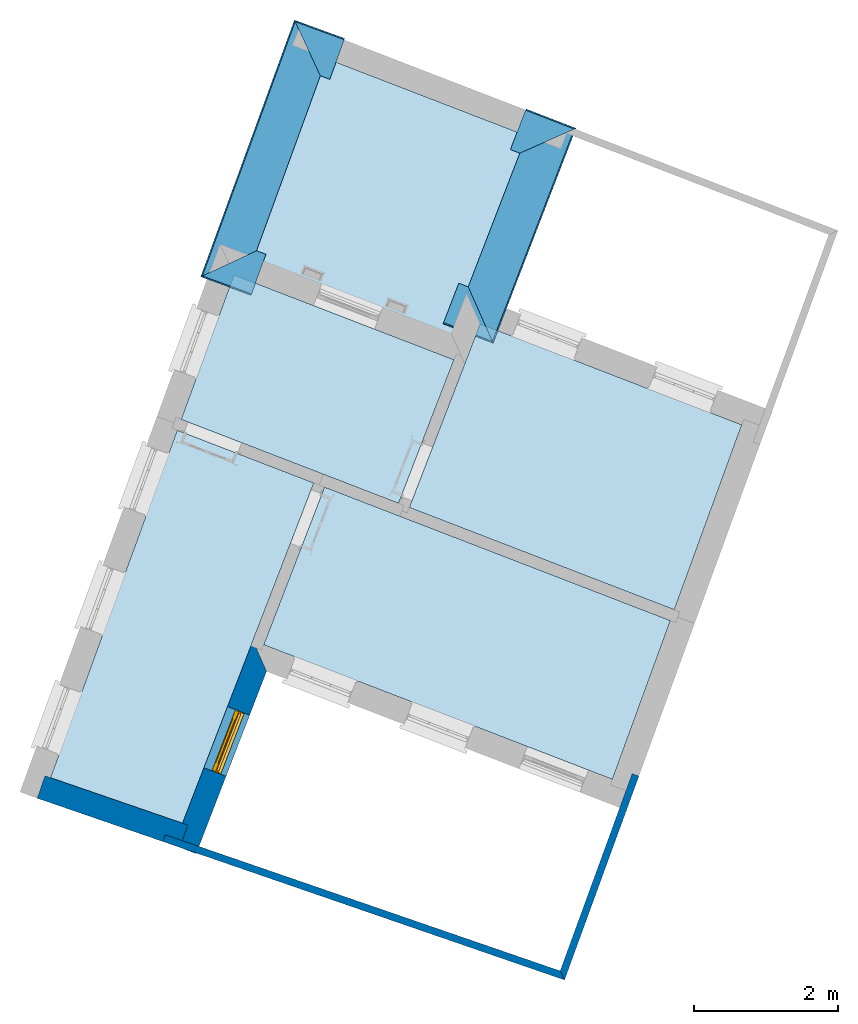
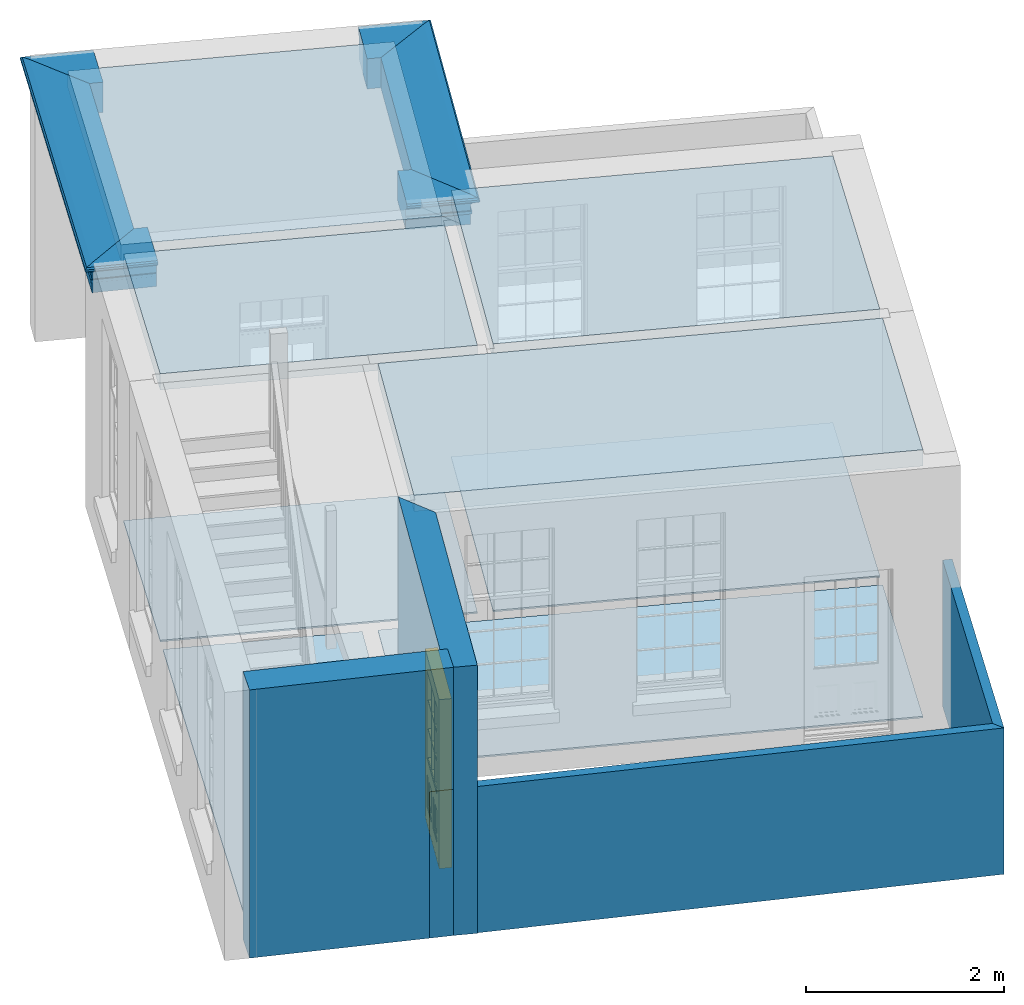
# One storey, part 1 of 6: 8 slabs, 6 beams, 4 walls, 1 door, 1 opening.
"""IFC4 building model written with IfcOpenShell, lengths in metres."""

from ifc_helpers import new_model, si_unit, frame, origin, origin_with_axes, place, context, subcontext, project, spatial, polyline, outline, extrude, clip, halfspace, faceted_brep, source, transform, mapped, material, layer, layer_set, layer_usage, material_profile, profile_set, profile_usage, type_object, type_shapes, element, fill, save


model = new_model("IFC4")

# Units and contexts
model_context = context("Model", 3, world=origin_with_axes())
body_context = subcontext(model_context, "Body", "Model", "MODEL_VIEW")
ifc_project = project(units=[si_unit("PLANEANGLEUNIT", "RADIAN"), si_unit("MASSUNIT", "GRAM", prefix="KILO"), si_unit("FORCEUNIT", "NEWTON", prefix="KILO"), si_unit("LENGTHUNIT", "METRE"), si_unit("AREAUNIT", "SQUARE_METRE"), si_unit("VOLUMEUNIT", "CUBIC_METRE")], contexts=[model_context, model_context])

# Sites, building, storey
site_1_placement = place(None, origin_with_axes())
site_1 = spatial("IfcSite", under=ifc_project, at=site_1_placement, Name="Tamar")
site_2_placement = place(site_1_placement, origin_with_axes())
site_2 = spatial("IfcSite", under=site_1, at=site_2_placement, Name="Site plot-11", CompositionType="ELEMENT")
building_placement = place(None, origin_with_axes())
building = spatial("IfcBuilding", under=site_2, at=building_placement, Name="Building plot-11", CompositionType="ELEMENT")
storey_placement = place(None, frame((0.0, 0.0, 26.8), z_axis=(0.0, 0.0, 1.0), x_axis=(1.0, 0.0, 0.0)))
storey = spatial("IfcBuildingStorey", under=building, at=storey_placement, Name="plot-11 0", CompositionType="ELEMENT", Elevation=26.8)

# Beams
ifc_material_profile_1 = material_profile(None, outline(polyline([(-0.26, 0.0), (-0.26, -0.37), (0.26, -0.37), (0.26, -0.235), (0.275, -0.235), (0.275, -0.2), (0.26, -0.2), (0.26, -0.11), (0.275, -0.11), (0.278, -0.098), (0.284, -0.089), (0.293, -0.083), (0.305, -0.08), (0.305, -0.065), (0.315, -0.065), (0.326, -0.063), (0.336, -0.056), (0.343, -0.047), (0.345, -0.035), (0.343, -0.023), (0.336, -0.014), (0.326, -0.007), (0.315, -0.005), (0.26, 0.0), (-0.26, 0.0)])))
ifc_profile_set_1 = profile_set([ifc_material_profile_1])
ifc_profile_usage_1 = profile_usage(ifc_profile_set_1)
beam_type_1 = type_object("IfcBeamType", Name="external beam_0", PredefinedType="NOTDEFINED", material=ifc_profile_set_1)
beam_1_placement = place(storey_placement, frame((245.458270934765, 316.22369480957, 3.3), z_axis=(-0.932925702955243, 0.360068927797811, 0.0), x_axis=(-0.360068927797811, -0.932925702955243, 0.0)))
element("IfcBeam", 1, at=beam_1_placement, inside=storey, type_object=beam_type_1, material=ifc_profile_usage_1, Name="external beam_0", context=body_context, shape_type="Clipping", body=[
    clip(clip(extrude(outline(polyline([(-0.26, 0.0), (-0.26, -0.37), (0.26, -0.37), (0.26, -0.235), (0.275, -0.235), (0.275, -0.2), (0.26, -0.2), (0.26, -0.11), (0.275, -0.11), (0.278, -0.098), (0.284, -0.089), (0.293, -0.083), (0.305, -0.08), (0.305, -0.065), (0.315, -0.065), (0.326, -0.063), (0.336, -0.056), (0.343, -0.047), (0.345, -0.035), (0.343, -0.023), (0.336, -0.014), (0.326, -0.007), (0.315, -0.005), (0.26, 0.0), (-0.26, 0.0)])), origin_with_axes(), (0.0, 0.0, 1.0), 2.4), halfspace(frame((0.0, 0.0, 1.4), z_axis=(5.04579357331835e-15, 0.0, -1.0), x_axis=(0.0, 1.0, 0.0)), True)), halfspace(frame((0.0, 0.0, 1.0), z_axis=(-0.707106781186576, 0.0, -0.707106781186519), x_axis=(0.0, 1.0, 0.0)), False)),
])
ifc_profile_usage_2 = profile_usage(ifc_profile_set_1)
beam_2_placement = place(storey_placement, frame((245.788917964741, 319.857635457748, 3.3), z_axis=(-0.360068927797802, -0.932925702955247, 0.0), x_axis=(0.932925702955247, -0.360068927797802, 0.0)))
element("IfcBeam", 2, at=beam_2_placement, inside=storey, type_object=beam_type_1, material=ifc_profile_usage_2, Name="external beam_0", context=body_context, shape_type="Clipping", body=[
    clip(clip(extrude(outline(polyline([(-0.26, 0.0), (-0.26, -0.37), (0.26, -0.37), (0.26, -0.235), (0.275, -0.235), (0.275, -0.2), (0.26, -0.2), (0.26, -0.11), (0.275, -0.11), (0.278, -0.098), (0.284, -0.089), (0.293, -0.083), (0.305, -0.08), (0.305, -0.065), (0.315, -0.065), (0.326, -0.063), (0.336, -0.056), (0.343, -0.047), (0.345, -0.035), (0.343, -0.023), (0.336, -0.014), (0.326, -0.007), (0.315, -0.005), (0.26, 0.0), (-0.26, 0.0)])), origin_with_axes(), (0.0, 0.0, 1.0), 4.5092523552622), halfspace(frame((0.0, 0.0, 3.5092523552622), z_axis=(0.707106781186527, 0.0, -0.707106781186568), x_axis=(0.0, 1.0, 0.0)), True)), halfspace(frame((0.0, 0.0, 1.0), z_axis=(-0.707106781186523, 0.0, -0.707106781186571), x_axis=(0.0, 1.0, 0.0)), False)),
])
ifc_profile_usage_3 = profile_usage(ifc_profile_set_1)
beam_3_placement = place(storey_placement, frame((244.122753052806, 319.428806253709, 3.3), z_axis=(0.932925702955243, -0.360068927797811, 0.0), x_axis=(0.360068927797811, 0.932925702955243, 0.0)))
element("IfcBeam", 3, at=beam_3_placement, inside=storey, type_object=beam_type_1, material=ifc_profile_usage_3, Name="external beam_0", context=body_context, shape_type="Clipping", body=[
    clip(clip(extrude(outline(polyline([(-0.26, 0.0), (-0.26, -0.37), (0.26, -0.37), (0.26, -0.235), (0.275, -0.235), (0.275, -0.2), (0.26, -0.2), (0.26, -0.11), (0.275, -0.11), (0.278, -0.098), (0.284, -0.089), (0.293, -0.083), (0.305, -0.08), (0.305, -0.065), (0.315, -0.065), (0.326, -0.063), (0.336, -0.056), (0.343, -0.047), (0.345, -0.035), (0.343, -0.023), (0.336, -0.014), (0.326, -0.007), (0.315, -0.005), (0.26, 0.0), (-0.26, 0.0)])), origin_with_axes(), (0.0, 0.0, 1.0), 2.4), halfspace(frame((0.0, 0.0, 1.4), z_axis=(0.707106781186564, 0.0, -0.707106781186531), x_axis=(0.0, 1.0, 0.0)), True)), halfspace(frame((0.0, 0.0, 1.0), z_axis=(4.82374896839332e-15, 0.0, -1.0), x_axis=(0.0, 1.0, 0.0)), False)),
])
ifc_material_profile_2 = material_profile(None, outline(polyline([(-0.26, 0.0), (-0.26, -0.37), (0.26, -0.37), (0.26, -0.235), (0.275, -0.235), (0.275, -0.2), (0.26, -0.2), (0.26, -0.11), (0.275, -0.11), (0.278, -0.098), (0.284, -0.089), (0.293, -0.083), (0.305, -0.08), (0.305, -0.065), (0.315, -0.065), (0.326, -0.063), (0.336, -0.056), (0.343, -0.047), (0.345, -0.035), (0.343, -0.023), (0.336, -0.014), (0.326, -0.007), (0.315, -0.005), (0.26, 0.0), (-0.26, 0.0)])))
ifc_profile_set_2 = profile_set([ifc_material_profile_2])
ifc_profile_usage_4 = profile_usage(ifc_profile_set_2)
beam_type_2 = type_object("IfcBeamType", Name="external beam_0", PredefinedType="NOTDEFINED", material=ifc_profile_set_2)
beam_4_placement = place(storey_placement, frame((241.22808564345, 320.526191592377, 3.3), z_axis=(0.939432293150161, -0.342734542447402, 0.0), x_axis=(0.342734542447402, 0.939432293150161, 0.0)))
element("IfcBeam", 4, at=beam_4_placement, inside=storey, type_object=beam_type_2, material=ifc_profile_usage_4, Name="external beam_0", context=body_context, shape_type="Clipping", body=[
    clip(clip(extrude(outline(polyline([(-0.26, 0.0), (-0.26, -0.37), (0.26, -0.37), (0.26, -0.235), (0.275, -0.235), (0.275, -0.2), (0.26, -0.2), (0.26, -0.11), (0.275, -0.11), (0.278, -0.098), (0.284, -0.089), (0.293, -0.083), (0.305, -0.08), (0.305, -0.065), (0.315, -0.065), (0.326, -0.063), (0.336, -0.056), (0.343, -0.047), (0.345, -0.035), (0.343, -0.023), (0.336, -0.014), (0.326, -0.007), (0.315, -0.005), (0.26, 0.0), (-0.26, 0.0)])), origin_with_axes(), (0.0, 0.0, 1.0), 2.4), halfspace(frame((0.0, 0.0, 1.4), z_axis=(-6.12323399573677e-17, 0.0, -1.0), x_axis=(0.0, 1.0, 0.0)), True)), halfspace(frame((0.0, 0.0, 1.0), z_axis=(-0.707106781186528, 0.0, -0.707106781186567), x_axis=(0.0, 1.0, 0.0)), False)),
])
ifc_profile_usage_5 = profile_usage(ifc_profile_set_2)
beam_5_placement = place(storey_placement, frame((240.760158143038, 316.325896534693, 3.3), z_axis=(0.342734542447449, 0.939432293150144, 0.0), x_axis=(-0.939432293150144, 0.342734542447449, 0.0)))
element("IfcBeam", 5, at=beam_5_placement, inside=storey, type_object=beam_type_2, material=ifc_profile_usage_5, Name="external beam_0", context=body_context, shape_type="Clipping", body=[
    clip(clip(extrude(outline(polyline([(-0.26, 0.0), (-0.26, -0.37), (0.26, -0.37), (0.26, -0.235), (0.275, -0.235), (0.275, -0.2), (0.26, -0.2), (0.26, -0.11), (0.275, -0.11), (0.278, -0.098), (0.284, -0.089), (0.293, -0.083), (0.305, -0.08), (0.305, -0.065), (0.315, -0.065), (0.326, -0.063), (0.336, -0.056), (0.343, -0.047), (0.345, -0.035), (0.343, -0.023), (0.336, -0.014), (0.326, -0.007), (0.315, -0.005), (0.26, 0.0), (-0.26, 0.0)])), origin_with_axes(), (0.0, 0.0, 1.0), 5.10626773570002), halfspace(frame((0.0, 0.0, 4.10626773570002), z_axis=(0.707106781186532, 0.0, -0.707106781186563), x_axis=(0.0, 1.0, 0.0)), True)), halfspace(frame((0.0, 0.0, 1.0), z_axis=(-0.707106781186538, 0.0, -0.707106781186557), x_axis=(0.0, 1.0, 0.0)), False)),
])
ifc_profile_usage_6 = profile_usage(ifc_profile_set_2)
beam_6_placement = place(storey_placement, frame((242.418097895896, 316.785500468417, 3.3), z_axis=(-0.939432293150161, 0.342734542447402, 0.0), x_axis=(-0.342734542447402, -0.939432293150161, 0.0)))
element("IfcBeam", 6, at=beam_6_placement, inside=storey, type_object=beam_type_2, material=ifc_profile_usage_6, Name="external beam_0", context=body_context, shape_type="Clipping", body=[
    clip(clip(extrude(outline(polyline([(-0.26, 0.0), (-0.26, -0.37), (0.26, -0.37), (0.26, -0.235), (0.275, -0.235), (0.275, -0.2), (0.26, -0.2), (0.26, -0.11), (0.275, -0.11), (0.278, -0.098), (0.284, -0.089), (0.293, -0.083), (0.305, -0.08), (0.305, -0.065), (0.315, -0.065), (0.326, -0.063), (0.336, -0.056), (0.343, -0.047), (0.345, -0.035), (0.343, -0.023), (0.336, -0.014), (0.326, -0.007), (0.315, -0.005), (0.26, 0.0), (-0.26, 0.0)])), origin_with_axes(), (0.0, 0.0, 1.0), 2.4), halfspace(frame((0.0, 0.0, 1.4), z_axis=(0.707106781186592, 0.0, -0.707106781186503), x_axis=(0.0, 1.0, 0.0)), True)), halfspace(frame((0.0, 0.0, 1.0), z_axis=(3.82856869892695e-16, 0.0, -1.0), x_axis=(0.0, 1.0, 0.0)), False)),
])

# Slabs
slab_1_placement = place(storey_placement, frame((246.37947383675, 310.078982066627, 3.1)))
element("IfcSlab", 7, at=slab_1_placement, inside=storey, Name="My Slab", ObjectType="Slab", PredefinedType="FLOOR", context=body_context, shape_type="SweptSolid", body=[
    extrude(outline(polyline([(0.0, 0.0), (0.804593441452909, 2.20538337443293), (-3.99848914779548, 4.05916529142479), (-4.84363138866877, 1.86943199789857), (0.0, 0.0)])), origin_with_axes(), (0.0, 0.0, 1.0), 0.2),
])
slab_2_placement = place(storey_placement, frame((246.37947383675, 310.078982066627, 0.0)))
element("IfcSlab", 8, at=slab_2_placement, inside=storey, Name="My Slab", ObjectType="Slab", PredefinedType="FLOOR", context=body_context, shape_type="SweptSolid", body=[
    extrude(outline(polyline([(0.0, 0.0), (0.804593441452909, 2.20538337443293), (-3.99848914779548, 4.05916529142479), (-4.84363138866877, 1.86943199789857), (0.0, 0.0)])), origin_with_axes(), (0.0, 0.0, 1.0), 0.02),
])
slab_3_placement = place(storey_placement, frame((243.40878116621, 313.912965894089, 3.1)))
element("IfcSlab", 9, at=slab_3_placement, inside=storey, Name="My Slab", ObjectType="Slab", PredefinedType="FLOOR", context=body_context, shape_type="SweptSolid", body=[
    extrude(outline(polyline([(0.0, 0.0), (0.769553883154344, 1.99388656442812), (-2.28608385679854, 3.17323042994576), (-3.01871556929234, 1.1650935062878), (0.0, 0.0)])), origin_with_axes(), (0.0, 0.0, 1.0), 0.2),
])
slab_4_placement = place(storey_placement, frame((243.40878116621, 313.912965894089, 0.0)))
element("IfcSlab", 10, at=slab_4_placement, inside=storey, Name="My Slab", ObjectType="Slab", PredefinedType="FLOOR", context=body_context, shape_type="SweptSolid", body=[
    extrude(outline(polyline([(0.0, 0.0), (0.769553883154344, 1.99388656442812), (-2.28608385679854, 3.17323042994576), (-3.01871556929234, 1.1650935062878), (0.0, 0.0)])), origin_with_axes(), (0.0, 0.0, 1.0), 0.02),
])
slab_5_placement = place(storey_placement, frame((247.238914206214, 312.434700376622, 3.1)))
element("IfcSlab", 11, at=slab_5_placement, inside=storey, Name="My Slab", ObjectType="Slab", PredefinedType="FLOOR", context=body_context, shape_type="SweptSolid", body=[
    extrude(outline(polyline([(0.0, 0.0), (0.937092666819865, 2.56856255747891), (-2.69654594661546, 3.97098973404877), (-3.68086492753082, 1.42065448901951), (0.0, 0.0)])), origin_with_axes(), (0.0, 0.0, 1.0), 0.2),
])
slab_6_placement = place(storey_placement, frame((247.238914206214, 312.434700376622, 0.0)))
element("IfcSlab", 12, at=slab_6_placement, inside=storey, Name="My Slab", ObjectType="Slab", PredefinedType="FLOOR", context=body_context, shape_type="SweptSolid", body=[
    extrude(outline(polyline([(0.0, 0.0), (0.937092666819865, 2.56856255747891), (-2.69654594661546, 3.97098973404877), (-3.68086492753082, 1.42065448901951), (0.0, 0.0)])), origin_with_axes(), (0.0, 0.0, 1.0), 0.02),
])
slab_7_placement = place(storey_placement, frame((244.235946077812, 316.05612057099, 3.1)))
element("IfcSlab", 13, at=slab_7_placement, inside=storey, Name="My Slab", ObjectType="Slab", PredefinedType="FLOOR", context=body_context, shape_type="SweptSolid", body=[
    extrude(outline(polyline([(0.0, 0.0), (1.1182689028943, 2.89739469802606), (-1.99378599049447, 4.09851314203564), (-3.05840184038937, 1.18041068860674), (0.0, 0.0)])), origin_with_axes(), (0.0, 0.0, 1.0), 0.2),
])
slab_8_placement = place(storey_placement, frame((242.231716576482, 314.1957583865, 0.0)))
element("IfcSlab", 14, at=slab_8_placement, inside=storey, Name="My Slab", ObjectType="Slab", PredefinedType="FLOOR", context=body_context, shape_type="SweptSolid", body=[
    extrude(outline(polyline([(0.0, 0.0), (-1.89649790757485, 0.731966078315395), (-3.65703367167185, -4.09364659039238), (-1.82384655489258, -4.72552113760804), (0.0, 0.0)])), origin_with_axes(), (0.0, 0.0, 1.0), 0.02),
])

# Wall, opening, door
ifc_material_1 = material(Name="Masonry")
ifc_layer_1 = layer(ifc_material_1, 0.33, ventilated=False)
ifc_layer_set_1 = layer_set([ifc_layer_1], Name="exterior_0.08_0.25")
ifc_layer_usage_1 = layer_usage(ifc_layer_set_1, "AXIS2", "POSITIVE", -0.25)
wall_type_1 = type_object("IfcWallType", Name="exterior_0.08_0.25", PredefinedType="SOLIDWALL", material=ifc_layer_set_1)
wall_1_placement = place(storey_placement, frame((240.454728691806, 309.369466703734, 0.0), z_axis=(0.0, 0.0, 1.0), x_axis=(0.360068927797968, 0.932925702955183, 0.0)))
wall_1 = element("IfcWall", 15, at=wall_1_placement, inside=storey, type_object=wall_type_1, material=ifc_layer_usage_1, Name="exterior", context=body_context, shape_type="SweptSolid", body=[
    extrude(outline(polyline([(-0.249999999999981, 0.0800000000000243), (-0.249999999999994, -0.249999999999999), (2.46524175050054, -0.249999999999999), (2.79524175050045, 0.0800000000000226), (-0.249999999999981, 0.0800000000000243)])), origin_with_axes(), (0.0, 0.0, 1.0), 3.3),
])
opening_placement = place(wall_1_placement, frame((0.902620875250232, 0.0, 0.0199999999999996)))
opening = element("IfcOpeningElement", 16, at=opening_placement, cuts=wall_1, Name="My Opening", ObjectType="Opening", context=body_context, shape_type="SweptSolid", body=[
    extrude(outline(polyline([(0.0, -0.270000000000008), (0.910000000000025, -0.270000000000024), (0.910000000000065, 1.09999999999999), (4.00790511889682e-14, 1.1), (0.0, -0.270000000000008)])), origin_with_axes(), (0.0, 0.0, 1.0), 2.08),
])
door_type = type_object("IfcDoorType", Name="door_panelled", OperationType="SINGLE_SWING_LEFT", PredefinedType="NOTDEFINED")
shared_shape = source(origin(), body_context, "Body", "Brep", [
    faceted_brep([(0.545, 0.195, 0.265), (0.745, 0.195, 0.265), (0.745, 0.2, 0.265), (0.545, 0.2, 0.265), (0.745, 0.2, 0.58), (0.545, 0.2, 0.58), (0.545, 0.195, 0.58), (0.515, 0.19, 0.235), (0.775, 0.19, 0.235), (0.745, 0.195, 0.58), (0.515, 0.19, 0.61), (0.515, 0.185, 0.235), (0.775, 0.185, 0.235), (0.775, 0.19, 0.61), (0.515, 0.185, 0.61), (0.785, 0.185, 0.225), (0.505, 0.185, 0.225), (0.775, 0.185, 0.61), (0.505, 0.185, 0.62), (0.785, 0.185, 0.62), (0.505, 0.18, 0.225), (0.785, 0.18, 0.225), (0.505, 0.18, 0.62), (0.785, 0.18, 0.62), (0.883, 0.18, 0.075), (0.898, 0.18, 0.075), (0.405, 0.18, 0.62), (0.405, 0.18, 0.225), (0.027, 0.18, 0.075), (0.785, 0.18, 0.82), (0.125, 0.18, 0.82), (0.405, 0.185, 0.62), (0.405, 0.185, 0.225), (0.898, 0.18, 2.068), (0.027, 0.17, 0.075), (0.883, 0.17, 0.075), (0.125, 0.18, 0.225), (0.012, 0.18, 0.075), (0.785, 0.19, 0.82), (0.125, 0.19, 0.82), (0.125, 0.18, 0.62), (0.125, 0.185, 0.62), (0.395, 0.185, 0.61), (0.395, 0.185, 0.235), (0.125, 0.185, 0.225), (0.785, 0.18, 1.895), (0.027, 0.14, 0.045), (0.883, 0.14, 0.045), (0.558333, 0.19, 0.83), (0.351667, 0.19, 0.83), (0.125, 0.18, 1.895), (0.125, 0.19, 1.895), (0.785, 0.19, 1.895), (0.012, 0.18, 2.068), (0.135, 0.185, 0.61), (0.395, 0.19, 0.61), (0.395, 0.19, 0.235), (0.135, 0.185, 0.235), (0.027, 0.14, 0.027), (0.883, 0.14, 0.027), (0.568333, 0.19, 0.83), (0.558333, 0.22, 0.83), (0.351667, 0.22, 0.83), (0.341667, 0.19, 0.83), (0.135, 0.19, 1.185), (0.135, 0.19, 1.53), (0.775, 0.19, 1.53), (0.775, 0.19, 1.185), (0.135, 0.19, 0.61), (0.365, 0.195, 0.58), (0.365, 0.195, 0.265), (0.135, 0.19, 0.235), (0.568333, 0.19, 1.175), (0.558333, 0.19, 1.175), (0.775, 0.19, 0.83), (0.558333, 0.22, 1.175), (0.785, 0.22, 0.82), (0.125, 0.22, 0.82), (0.351667, 0.22, 1.175), (0.351667, 0.19, 1.175), (0.341667, 0.19, 1.175), (0.135, 0.19, 0.83), (0.135, 0.19, 1.175), (0.135, 0.22, 1.185), (0.135, 0.22, 1.53), (0.135, 0.19, 1.54), (0.351667, 0.19, 1.885), (0.558333, 0.19, 1.885), (0.775, 0.22, 1.53), (0.775, 0.22, 1.185), (0.775, 0.19, 1.175), (0.775, 0.19, 1.54), (0.165, 0.195, 0.58), (0.365, 0.2, 0.58), (0.365, 0.2, 0.265), (0.165, 0.195, 0.265), (0.568333, 0.22, 0.83), (0.568333, 0.22, 1.175), (0.568333, 0.19, 1.185), (0.558333, 0.19, 1.185), (0.775, 0.22, 0.83), (0.785, 0.23, 0.82), (0.125, 0.23, 0.82), (0.341667, 0.22, 0.83), (0.341667, 0.22, 1.175), (0.351667, 0.19, 1.185), (0.341667, 0.19, 1.185), (0.135, 0.22, 0.83), (0.341667, 0.22, 1.185), (0.125, 0.22, 1.895), (0.341667, 0.22, 1.53), (0.341667, 0.19, 1.53), (0.135, 0.19, 1.885), (0.341667, 0.19, 1.54), (0.341667, 0.19, 1.885), (0.558333, 0.22, 1.885), (0.351667, 0.22, 1.885), (0.568333, 0.19, 1.885), (0.785, 0.22, 1.895), (0.568333, 0.22, 1.185), (0.568333, 0.19, 1.53), (0.568333, 0.22, 1.53), (0.568333, 0.19, 1.54), (0.775, 0.19, 1.885), (0.165, 0.2, 0.58), (0.165, 0.2, 0.265), (0.775, 0.22, 1.175), (0.558333, 0.19, 1.53), (0.351667, 0.22, 1.185), (0.558333, 0.22, 1.185), (0.505, 0.23, 0.62), (0.405, 0.23, 0.62), (0.125, 0.23, 1.895), (0.785, 0.23, 1.895), (0.351667, 0.19, 1.53), (0.135, 0.22, 1.175), (0.135, 0.22, 1.54), (0.341667, 0.22, 1.54), (0.135, 0.22, 1.885), (0.351667, 0.19, 1.54), (0.558333, 0.22, 1.54), (0.558333, 0.19, 1.54), (0.351667, 0.22, 1.54), (0.775, 0.22, 1.54), (0.568333, 0.22, 1.54), (0.775, 0.22, 1.885), (0.558333, 0.22, 1.53), (0.405, 0.23, 0.225), (0.505, 0.23, 0.225), (0.125, 0.23, 0.62), (0.785, 0.23, 0.62), (0.012, 0.23, 2.068), (0.898, 0.23, 2.068), (0.351667, 0.22, 1.53), (0.341667, 0.22, 1.885), (0.568333, 0.22, 1.885), (0.405, 0.225, 0.225), (0.405, 0.225, 0.62), (0.505, 0.225, 0.62), (0.505, 0.225, 0.225), (0.898, 0.23, 0.027), (0.012, 0.23, 0.027), (0.125, 0.225, 0.62), (0.785, 0.225, 0.62), (0.395, 0.225, 0.235), (0.395, 0.225, 0.61), (0.125, 0.23, 0.225), (0.125, 0.225, 0.225), (0.515, 0.225, 0.61), (0.515, 0.225, 0.235), (0.785, 0.23, 0.225), (0.785, 0.225, 0.225), (0.135, 0.225, 0.61), (0.775, 0.225, 0.61), (0.135, 0.225, 0.235), (0.395, 0.22, 0.235), (0.395, 0.22, 0.61), (0.515, 0.22, 0.61), (0.515, 0.22, 0.235), (0.775, 0.225, 0.235), (0.135, 0.22, 0.61), (0.775, 0.22, 0.61), (0.135, 0.22, 0.235), (0.365, 0.215, 0.265), (0.365, 0.215, 0.58), (0.545, 0.215, 0.58), (0.545, 0.215, 0.265), (0.775, 0.22, 0.235), (0.165, 0.215, 0.58), (0.745, 0.215, 0.58), (0.165, 0.215, 0.265), (0.365, 0.21, 0.58), (0.365, 0.21, 0.265), (0.545, 0.21, 0.58), (0.545, 0.21, 0.265), (0.745, 0.215, 0.265), (0.165, 0.21, 0.58), (0.745, 0.21, 0.58), (0.165, 0.21, 0.265), (0.745, 0.21, 0.265), (0.885, 0.178, 0.025), (0.025, 0.178, 0.025), (0.025, 0.15, 0.025), (0.885, 0.15, 0.025), (0.9, 0.23, 0.025), (0.01, 0.23, 0.025), (0.9, 0.178, 0.025), (0.91, 0.23, 0.0), (0.0, 0.23, 0.0), (0.01, 0.178, 0.025), (0.9, 0.178, 2.07), (0.9, 0.23, 2.07), (0.885, 0.178, 2.055), (0.91, 0.23, 2.08), (0.01, 0.23, 2.07), (0.0, 0.23, 2.08), (0.01, 0.178, 2.07), (0.025, 0.178, 2.055), (0.0, 0.1, 2.08), (0.91, 0.1, 2.08), (0.01, 0.1, 2.07), (0.9, 0.1, 2.07), (0.01, 0.15, 2.07), (0.9, 0.15, 2.07), (0.0, 0.1, 0.0), (0.91, 0.1, 0.0), (0.01, 0.1, 0.025), (0.9, 0.1, 0.025), (0.01, 0.15, 0.025), (0.025, 0.15, 2.055), (0.9, 0.15, 0.025), (0.885, 0.15, 2.055), (0.898, 0.18, 0.027), (0.012, 0.18, 0.027), (0.883, 0.18, 0.027), (0.027, 0.18, 0.027)], [[[0, 1, 2, 3]], [[2, 4, 5, 3]], [[0, 3, 5, 6]], [[1, 0, 7, 8]], [[9, 4, 2, 1]], [[9, 6, 5, 4]], [[0, 6, 10, 7]], [[8, 7, 11, 12]], [[8, 13, 9, 1]], [[13, 10, 6, 9]], [[7, 10, 14, 11]], [[15, 12, 11, 16]], [[12, 17, 13, 8]], [[17, 14, 10, 13]], [[18, 16, 11, 14]], [[15, 19, 17, 12]], [[15, 16, 20, 21]], [[14, 17, 19, 18]], [[16, 18, 22, 20]], [[21, 23, 19, 15]], [[24, 25, 21, 20]], [[23, 22, 18, 19]], [[20, 22, 26, 27]], [[23, 21, 25]], [[28, 24, 20, 27]], [[22, 23, 29]], [[29, 30, 26, 22]], [[27, 26, 31, 32]], [[23, 25, 33, 29]], [[34, 35, 24, 28]], [[28, 27, 36, 37]], [[38, 39, 30, 29]], [[26, 30, 40]], [[26, 40, 41, 31]], [[42, 43, 32, 31]], [[32, 44, 36, 27]], [[33, 45, 29]], [[46, 47, 35, 34]], [[36, 40, 37]], [[39, 38, 48, 49]], [[50, 30, 39, 51]], [[29, 45, 52, 38]], [[53, 37, 40, 30]], [[44, 41, 40, 36]], [[31, 41, 54, 42]], [[43, 42, 55, 56]], [[57, 44, 32, 43]], [[50, 45, 33, 53]], [[47, 46, 58, 59]], [[60, 48, 38]], [[49, 48, 61, 62]], [[49, 63, 39]], [[50, 53, 30]], [[51, 39, 64, 65]], [[45, 50, 51, 52]], [[66, 67, 38, 52]], [[57, 54, 41, 44]], [[42, 54, 68, 55]], [[56, 55, 69, 70]], [[56, 71, 57, 43]], [[60, 72, 73, 48]], [[60, 38, 74]], [[48, 73, 75, 61]], [[76, 77, 62, 61]], [[62, 78, 79, 49]], [[49, 79, 80, 63]], [[63, 81, 39]], [[82, 64, 39]], [[65, 64, 83, 84]], [[85, 51, 65]], [[52, 51, 86, 87]], [[88, 89, 67, 66]], [[90, 38, 67]], [[91, 66, 52]], [[71, 68, 54, 57]], [[55, 68, 92, 69]], [[69, 93, 94, 70]], [[70, 95, 71, 56]], [[96, 97, 72, 60]], [[73, 72, 98, 99]], [[74, 38, 90]], [[100, 96, 60, 74]], [[75, 73, 79, 78]], [[61, 75, 97, 96]], [[101, 102, 77, 76]], [[77, 103, 62]], [[96, 76, 61]], [[103, 104, 78, 62]], [[80, 79, 105, 106]], [[63, 80, 104, 103]], [[81, 63, 103, 107]], [[81, 82, 39]], [[106, 64, 82, 80]], [[106, 108, 83, 64]], [[84, 83, 77, 109]], [[110, 111, 65, 84]], [[112, 51, 85]], [[113, 85, 65, 111]], [[114, 86, 51]], [[115, 87, 86, 116]], [[117, 52, 87]], [[118, 76, 89, 88]], [[119, 98, 67, 89]], [[120, 121, 88, 66]], [[67, 98, 72, 90]], [[91, 122, 120, 66]], [[91, 52, 123]], [[95, 92, 68, 71]], [[69, 92, 124, 93]], [[94, 93, 124, 125]], [[94, 125, 95, 70]], [[72, 97, 126, 90]], [[127, 99, 98, 120]], [[99, 105, 79, 73]], [[74, 90, 126, 100]], [[96, 100, 76]], [[128, 129, 75, 78]], [[97, 75, 129, 119]], [[130, 131, 102, 101]], [[109, 77, 102, 132]], [[133, 101, 76, 118]], [[77, 107, 103]], [[78, 104, 108, 128]], [[111, 106, 105, 134]], [[104, 80, 82, 135]], [[107, 135, 82, 81]], [[110, 108, 106, 111]], [[104, 135, 83, 108]], [[83, 135, 77]], [[136, 84, 109]], [[110, 84, 136, 137]], [[114, 51, 112]], [[85, 136, 138, 112]], [[113, 137, 136, 85]], [[111, 134, 139, 113]], [[86, 114, 113, 139]], [[140, 141, 87, 115]], [[139, 142, 116, 86]], [[109, 118, 115, 116]], [[117, 123, 52]], [[117, 87, 141, 122]], [[126, 89, 76]], [[143, 118, 88]], [[120, 98, 119, 121]], [[119, 89, 126, 97]], [[144, 143, 88, 121]], [[144, 122, 91, 143]], [[127, 120, 122, 141]], [[143, 91, 123, 145]], [[124, 92, 95, 125]], [[146, 129, 99, 127]], [[99, 129, 128, 105]], [[100, 126, 76]], [[121, 119, 129, 146]], [[147, 131, 130, 148]], [[131, 149, 102]], [[130, 101, 150]], [[102, 151, 132]], [[118, 109, 132, 133]], [[101, 133, 152]], [[107, 77, 135]], [[153, 128, 108, 110]], [[134, 105, 128, 153]], [[109, 138, 136]], [[153, 110, 137, 142]], [[154, 114, 112, 138]], [[137, 113, 114, 154]], [[141, 139, 134, 127]], [[141, 140, 142, 139]], [[144, 140, 115, 155]], [[142, 137, 154, 116]], [[155, 115, 118]], [[116, 154, 109]], [[117, 155, 145, 123]], [[122, 144, 155, 117]], [[143, 145, 118]], [[121, 146, 140, 144]], [[146, 127, 134, 153]], [[156, 157, 131, 147]], [[148, 130, 158, 159]], [[148, 160, 161, 147]], [[157, 162, 149, 131]], [[161, 151, 102, 149]], [[101, 152, 160, 150]], [[163, 158, 130, 150]], [[151, 152, 133, 132]], [[154, 138, 109]], [[142, 140, 146, 153]], [[145, 155, 118]], [[157, 156, 164, 165]], [[147, 166, 167, 156]], [[168, 169, 159, 158]], [[170, 148, 159, 171]], [[148, 170, 160]], [[166, 147, 161]], [[172, 162, 157, 165]], [[166, 149, 162, 167]], [[166, 161, 149]], [[150, 160, 170]], [[163, 173, 168, 158]], [[171, 163, 150, 170]], [[174, 164, 156, 167]], [[175, 176, 165, 164]], [[169, 168, 177, 178]], [[171, 159, 169, 179]], [[167, 162, 172, 174]], [[176, 180, 172, 165]], [[179, 173, 163, 171]], [[181, 177, 168, 173]], [[164, 174, 182, 175]], [[183, 184, 176, 175]], [[178, 177, 185, 186]], [[179, 169, 178, 187]], [[174, 172, 180, 182]], [[184, 188, 180, 176]], [[187, 181, 173, 179]], [[189, 185, 177, 181]], [[175, 182, 190, 183]], [[191, 184, 183, 192]], [[185, 193, 194, 186]], [[187, 178, 186, 195]], [[182, 180, 188, 190]], [[191, 196, 188, 184]], [[195, 189, 181, 187]], [[197, 193, 185, 189]], [[183, 190, 198, 192]], [[198, 196, 191, 192]], [[194, 193, 197, 199]], [[195, 186, 194, 199]], [[188, 196, 198, 190]], [[197, 189, 195, 199]], [[200, 201, 202, 203]], [[201, 200, 204, 205]], [[206, 204, 200]], [[204, 207, 208, 205]], [[209, 201, 205]], [[210, 211, 204, 206]], [[206, 200, 212, 210]], [[211, 213, 207, 204]], [[214, 205, 208, 215]], [[216, 217, 201, 209]], [[205, 214, 216, 209]], [[216, 214, 211, 210]], [[210, 212, 217, 216]], [[214, 215, 213, 211]], [[218, 219, 213, 215]], [[219, 218, 220, 221]], [[221, 220, 222, 223]], [[215, 208, 224, 218]], [[225, 224, 208, 207]], [[224, 226, 220, 218]], [[224, 225, 227, 226]], [[219, 225, 207, 213]], [[228, 222, 220, 226]], [[219, 221, 227, 225]], [[226, 227, 203, 202]], [[202, 229, 222, 228]], [[228, 226, 202]], [[227, 221, 223, 230]], [[230, 203, 227]], [[217, 229, 202, 201]], [[231, 223, 222, 229]], [[230, 223, 231, 203]], [[231, 229, 217, 212]], [[212, 200, 203, 231]], [[33, 152, 151, 53]], [[25, 160, 152, 33]], [[161, 37, 53, 151]], [[232, 160, 25]], [[161, 233, 37]], [[160, 232, 234]], [[24, 234, 232, 25]], [[233, 161, 235]], [[37, 233, 235, 28]], [[161, 160, 234, 235]], [[35, 47, 234, 24]], [[28, 235, 46, 34]], [[58, 235, 234, 59]], [[59, 234, 47]], [[58, 46, 235]]]),
])
type_shapes(door_type, [shared_shape])
door_placement = place(storey_placement, frame((241.031624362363, 310.114326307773, 0.0199999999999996), z_axis=(0.0, 0.0, 1.0), x_axis=(0.327662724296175, 0.848962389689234, 0.0)))
door = element("IfcDoor", 17, at=door_placement, inside=storey, type_object=door_type, Name="circulation outside door", OverallHeight=2.08, OverallWidth=0.91, context=body_context, shape_type="MappedRepresentation", body=[
    mapped(shared_shape, transform((0.0, 0.0, 0.0), scale=1.0)),
])
fill(opening, door)

# Walls
ifc_material_2 = material(Name="Masonry")
ifc_layer_2 = layer(ifc_material_2, 0.33, ventilated=False)
ifc_layer_set_2 = layer_set([ifc_layer_2], Name="party_0.08_0.25")
ifc_layer_usage_2 = layer_usage(ifc_layer_set_2, "AXIS2", "POSITIVE", -0.25)
wall_type_2 = type_object("IfcWallType", Name="party_0.08_0.25", PredefinedType="SOLIDWALL", material=ifc_layer_set_2)
wall_2_placement = place(storey_placement, frame((238.471614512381, 310.053019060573, 0.0), z_axis=(0.0, 0.0, 1.0), x_axis=(0.945414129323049, -0.325871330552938, 0.0)))
element("IfcWall", 18, at=wall_2_placement, inside=storey, type_object=wall_type_2, material=ifc_layer_usage_2, Name="party", context=body_context, shape_type="SweptSolid", body=[
    extrude(outline(polyline([(4.65895350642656e-15, 0.0800000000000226), (1.5053108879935e-14, -0.250000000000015), (2.097614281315, -0.250000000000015), (2.09761428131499, 0.0800000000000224), (4.65895350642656e-15, 0.0800000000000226)])), origin_with_axes(), (0.0, 0.0, 1.0), 3.3),
])
ifc_material_3 = material(Name="Masonry")
ifc_layer_3 = layer(ifc_material_3, 0.1, ventilated=False)
ifc_layer_set_3 = layer_set([ifc_layer_3], Name="fence_-0.15_0.25")
ifc_layer_usage_3 = layer_usage(ifc_layer_set_3, "AXIS2", "POSITIVE", -0.25)
wall_type_3 = type_object("IfcWallType", Name="fence_-0.15_0.25", PredefinedType="SOLIDWALL", material=ifc_layer_set_3)
wall_3_placement = place(storey_placement, frame((240.454728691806, 309.369466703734, 0.0), z_axis=(0.0, 0.0, 1.0), x_axis=(0.945414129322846, -0.325871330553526, 0.0)))
element("IfcWall", 19, at=wall_3_placement, inside=storey, type_object=wall_type_3, material=ifc_layer_usage_3, Name="fence", context=body_context, shape_type="SweptSolid", body=[
    extrude(outline(polyline([(-0.250000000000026, -0.149999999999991), (-0.250000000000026, -0.250000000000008), (5.64915277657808, -0.249999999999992), (5.55092625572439, -0.150000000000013), (-0.250000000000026, -0.149999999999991)])), origin_with_axes(), (0.0, 0.0, 1.0), 1.8),
])
wall_4_placement = place(storey_placement, frame((245.563355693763, 307.608592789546, 0.0), z_axis=(0.0, 0.0, 1.0), x_axis=(0.342734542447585, 0.939432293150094, 0.0)))
element("IfcWall", 20, at=wall_4_placement, inside=storey, type_object=wall_type_3, material=ifc_layer_usage_3, Name="fence", context=body_context, shape_type="SweptSolid", body=[
    extrude(outline(polyline([(-0.147339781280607, -0.149999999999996), (-0.245566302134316, -0.249999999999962), (2.76898021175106, -0.249999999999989), (2.76898021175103, -0.150000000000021), (-0.147339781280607, -0.149999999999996)])), origin_with_axes(), (0.0, 0.0, 1.0), 1.8),
])

save(model, "model.ifc")
